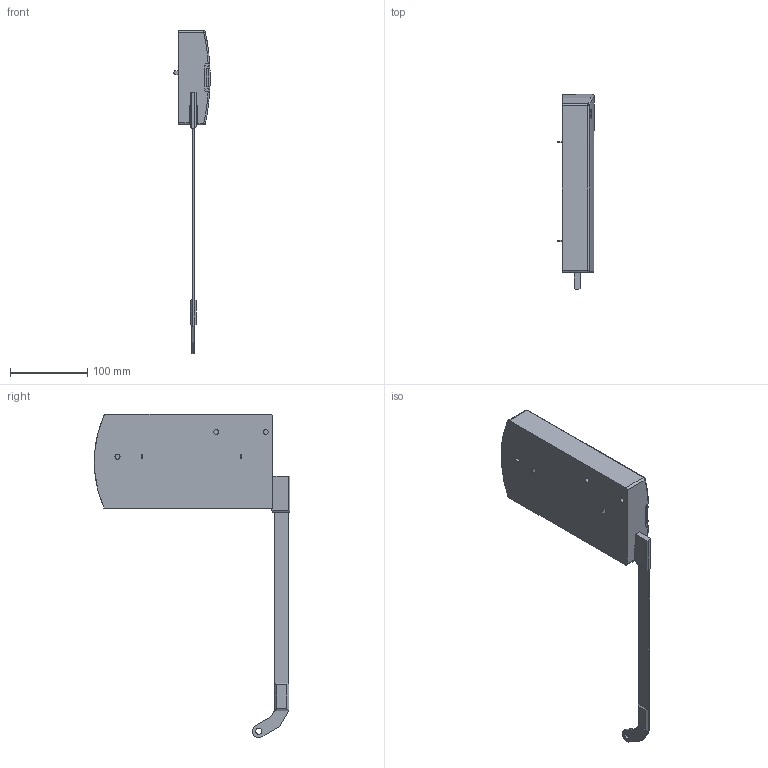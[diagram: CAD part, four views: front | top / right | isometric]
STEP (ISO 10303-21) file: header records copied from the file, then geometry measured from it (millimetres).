
FILE_DESCRIPTION (( 'STEP AP203' ), '1' );
FILE_NAME ('Kinvaro_F-20_Typ5_links_D2876023125~a.step', '2012-05-04T06:25:23', ( 'admin' ), ( 'Hewlett-Packard Company' ), 'SwSTEP 2.0', 'SolidWorks 2011', '' );
FILE_SCHEMA (( 'CONFIG_CONTROL_DESIGN' ));
Length unit declared in the file: millimetre
Products named in the file (1): Kinvaro_F-20_Typ5_links_D2876023125~a
Bounding box: 46.99 x 253.01 x 418.5 mm (x, y, z)
Volume: 1092369.1 mm3; surface area: 98367.8 mm2
Topology: 1 solids, 1 shells, 410 faces, 1130 edges, 741 vertices
Faces by surface type: cylinder 180, plane 172, bspline 46, torus 8, sphere 4
Entity records: 14396 total; most frequent: CARTESIAN_POINT 3991, ORIENTED_EDGE 2254, DIRECTION 2058, EDGE_CURVE 1127, VERTEX_POINT 741, AXIS2_PLACEMENT_3D 724, VECTOR 610, LINE 610
